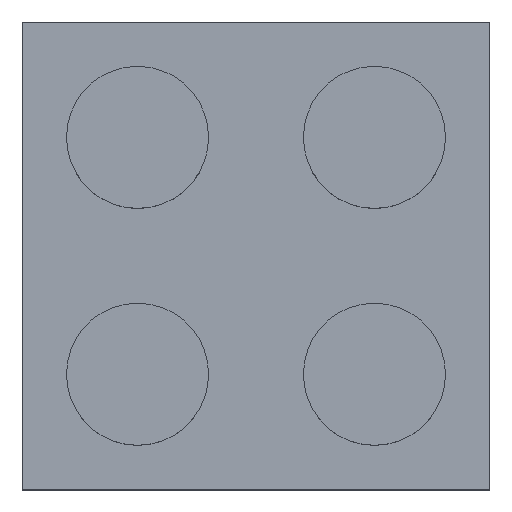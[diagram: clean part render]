
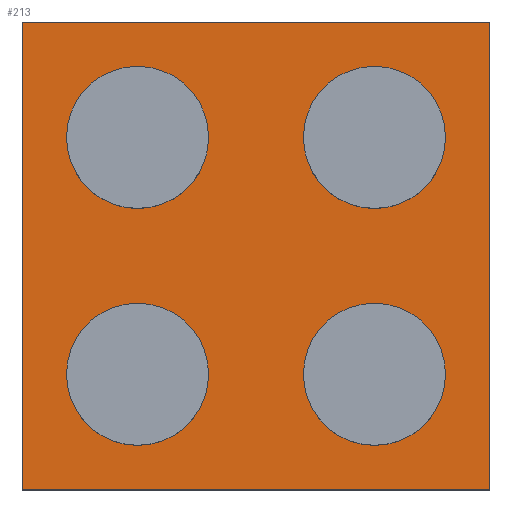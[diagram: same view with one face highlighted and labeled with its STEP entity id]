
A CAD part, top view. The second image highlights one B-rep face of the part: STEP entity #213.
In plain terms, the highlighted planar face has unit normal (0, 0, 1).
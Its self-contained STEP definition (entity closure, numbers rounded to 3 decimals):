
#24 = VERTEX_POINT('',#25);
#25 = CARTESIAN_POINT('',(-7.9,-7.9,3.2));
#32 = PLANE('',#33);
#33 = AXIS2_PLACEMENT_3D('',#34,#35,#36);
#34 = CARTESIAN_POINT('',(-7.9,-7.9,0.));
#35 = DIRECTION('',(1.,0.,0.));
#36 = DIRECTION('',(0.,0.,1.));
#44 = PLANE('',#45);
#45 = AXIS2_PLACEMENT_3D('',#46,#47,#48);
#46 = CARTESIAN_POINT('',(-7.9,-7.9,0.));
#47 = DIRECTION('',(0.,1.,0.));
#48 = DIRECTION('',(0.,0.,1.));
#85 = VERTEX_POINT('',#86);
#86 = CARTESIAN_POINT('',(-7.9,7.9,3.2));
#100 = PLANE('',#101);
#101 = AXIS2_PLACEMENT_3D('',#102,#103,#104);
#102 = CARTESIAN_POINT('',(-7.9,7.9,0.));
#103 = DIRECTION('',(0.,1.,0.));
#104 = DIRECTION('',(0.,0.,1.));
#112 = EDGE_CURVE('',#24,#85,#113,.T.);
#113 = SURFACE_CURVE('',#114,(#118,#125),.PCURVE_S1.);
#114 = LINE('',#115,#116);
#115 = CARTESIAN_POINT('',(-7.9,-7.9,3.2));
#116 = VECTOR('',#117,1.);
#117 = DIRECTION('',(0.,1.,0.));
#118 = PCURVE('',#32,#119);
#119 = DEFINITIONAL_REPRESENTATION('',(#120),#124);
#120 = LINE('',#121,#122);
#121 = CARTESIAN_POINT('',(3.2,0.));
#122 = VECTOR('',#123,1.);
#123 = DIRECTION('',(0.,-1.));
#124 = ( GEOMETRIC_REPRESENTATION_CONTEXT(2) 
PARAMETRIC_REPRESENTATION_CONTEXT() REPRESENTATION_CONTEXT('2D SPACE',''
  ) );
#125 = PCURVE('',#126,#131);
#126 = PLANE('',#127);
#127 = AXIS2_PLACEMENT_3D('',#128,#129,#130);
#128 = CARTESIAN_POINT('',(-7.9,-7.9,3.2));
#129 = DIRECTION('',(0.,0.,1.));
#130 = DIRECTION('',(1.,0.,0.));
#131 = DEFINITIONAL_REPRESENTATION('',(#132),#136);
#132 = LINE('',#133,#134);
#133 = CARTESIAN_POINT('',(0.,0.));
#134 = VECTOR('',#135,1.);
#135 = DIRECTION('',(0.,1.));
#136 = ( GEOMETRIC_REPRESENTATION_CONTEXT(2) 
PARAMETRIC_REPRESENTATION_CONTEXT() REPRESENTATION_CONTEXT('2D SPACE',''
  ) );
#165 = EDGE_CURVE('',#24,#166,#168,.T.);
#166 = VERTEX_POINT('',#167);
#167 = CARTESIAN_POINT('',(7.9,-7.9,3.2));
#168 = SURFACE_CURVE('',#169,(#173,#180),.PCURVE_S1.);
#169 = LINE('',#170,#171);
#170 = CARTESIAN_POINT('',(-7.9,-7.9,3.2));
#171 = VECTOR('',#172,1.);
#172 = DIRECTION('',(1.,0.,0.));
#173 = PCURVE('',#44,#174);
#174 = DEFINITIONAL_REPRESENTATION('',(#175),#179);
#175 = LINE('',#176,#177);
#176 = CARTESIAN_POINT('',(3.2,0.));
#177 = VECTOR('',#178,1.);
#178 = DIRECTION('',(0.,1.));
#179 = ( GEOMETRIC_REPRESENTATION_CONTEXT(2) 
PARAMETRIC_REPRESENTATION_CONTEXT() REPRESENTATION_CONTEXT('2D SPACE',''
  ) );
#180 = PCURVE('',#126,#181);
#181 = DEFINITIONAL_REPRESENTATION('',(#182),#186);
#182 = LINE('',#183,#184);
#183 = CARTESIAN_POINT('',(0.,0.));
#184 = VECTOR('',#185,1.);
#185 = DIRECTION('',(1.,0.));
#186 = ( GEOMETRIC_REPRESENTATION_CONTEXT(2) 
PARAMETRIC_REPRESENTATION_CONTEXT() REPRESENTATION_CONTEXT('2D SPACE',''
  ) );
#202 = PLANE('',#203);
#203 = AXIS2_PLACEMENT_3D('',#204,#205,#206);
#204 = CARTESIAN_POINT('',(7.9,-7.9,0.));
#205 = DIRECTION('',(1.,0.,0.));
#206 = DIRECTION('',(0.,0.,1.));
#213 = ADVANCED_FACE('',(#214,#262,#293,#324,#355),#126,.T.);
#214 = FACE_BOUND('',#215,.T.);
#215 = EDGE_LOOP('',(#216,#217,#218,#241));
#216 = ORIENTED_EDGE('',*,*,#112,.F.);
#217 = ORIENTED_EDGE('',*,*,#165,.T.);
#218 = ORIENTED_EDGE('',*,*,#219,.T.);
#219 = EDGE_CURVE('',#166,#220,#222,.T.);
#220 = VERTEX_POINT('',#221);
#221 = CARTESIAN_POINT('',(7.9,7.9,3.2));
#222 = SURFACE_CURVE('',#223,(#227,#234),.PCURVE_S1.);
#223 = LINE('',#224,#225);
#224 = CARTESIAN_POINT('',(7.9,-7.9,3.2));
#225 = VECTOR('',#226,1.);
#226 = DIRECTION('',(0.,1.,0.));
#227 = PCURVE('',#126,#228);
#228 = DEFINITIONAL_REPRESENTATION('',(#229),#233);
#229 = LINE('',#230,#231);
#230 = CARTESIAN_POINT('',(15.8,0.));
#231 = VECTOR('',#232,1.);
#232 = DIRECTION('',(0.,1.));
#233 = ( GEOMETRIC_REPRESENTATION_CONTEXT(2) 
PARAMETRIC_REPRESENTATION_CONTEXT() REPRESENTATION_CONTEXT('2D SPACE',''
  ) );
#234 = PCURVE('',#202,#235);
#235 = DEFINITIONAL_REPRESENTATION('',(#236),#240);
#236 = LINE('',#237,#238);
#237 = CARTESIAN_POINT('',(3.2,0.));
#238 = VECTOR('',#239,1.);
#239 = DIRECTION('',(0.,-1.));
#240 = ( GEOMETRIC_REPRESENTATION_CONTEXT(2) 
PARAMETRIC_REPRESENTATION_CONTEXT() REPRESENTATION_CONTEXT('2D SPACE',''
  ) );
#241 = ORIENTED_EDGE('',*,*,#242,.F.);
#242 = EDGE_CURVE('',#85,#220,#243,.T.);
#243 = SURFACE_CURVE('',#244,(#248,#255),.PCURVE_S1.);
#244 = LINE('',#245,#246);
#245 = CARTESIAN_POINT('',(-7.9,7.9,3.2));
#246 = VECTOR('',#247,1.);
#247 = DIRECTION('',(1.,0.,0.));
#248 = PCURVE('',#126,#249);
#249 = DEFINITIONAL_REPRESENTATION('',(#250),#254);
#250 = LINE('',#251,#252);
#251 = CARTESIAN_POINT('',(0.,15.8));
#252 = VECTOR('',#253,1.);
#253 = DIRECTION('',(1.,0.));
#254 = ( GEOMETRIC_REPRESENTATION_CONTEXT(2) 
PARAMETRIC_REPRESENTATION_CONTEXT() REPRESENTATION_CONTEXT('2D SPACE',''
  ) );
#255 = PCURVE('',#100,#256);
#256 = DEFINITIONAL_REPRESENTATION('',(#257),#261);
#257 = LINE('',#258,#259);
#258 = CARTESIAN_POINT('',(3.2,0.));
#259 = VECTOR('',#260,1.);
#260 = DIRECTION('',(0.,1.));
#261 = ( GEOMETRIC_REPRESENTATION_CONTEXT(2) 
PARAMETRIC_REPRESENTATION_CONTEXT() REPRESENTATION_CONTEXT('2D SPACE',''
  ) );
#262 = FACE_BOUND('',#263,.T.);
#263 = EDGE_LOOP('',(#264));
#264 = ORIENTED_EDGE('',*,*,#265,.F.);
#265 = EDGE_CURVE('',#266,#266,#268,.T.);
#266 = VERTEX_POINT('',#267);
#267 = CARTESIAN_POINT('',(-1.6,-4.,3.2));
#268 = SURFACE_CURVE('',#269,(#274,#281),.PCURVE_S1.);
#269 = CIRCLE('',#270,2.4);
#270 = AXIS2_PLACEMENT_3D('',#271,#272,#273);
#271 = CARTESIAN_POINT('',(-4.,-4.,3.2));
#272 = DIRECTION('',(0.,0.,1.));
#273 = DIRECTION('',(1.,0.,0.));
#274 = PCURVE('',#126,#275);
#275 = DEFINITIONAL_REPRESENTATION('',(#276),#280);
#276 = CIRCLE('',#277,2.4);
#277 = AXIS2_PLACEMENT_2D('',#278,#279);
#278 = CARTESIAN_POINT('',(3.9,3.9));
#279 = DIRECTION('',(1.,0.));
#280 = ( GEOMETRIC_REPRESENTATION_CONTEXT(2) 
PARAMETRIC_REPRESENTATION_CONTEXT() REPRESENTATION_CONTEXT('2D SPACE',''
  ) );
#281 = PCURVE('',#282,#287);
#282 = CYLINDRICAL_SURFACE('',#283,2.4);
#283 = AXIS2_PLACEMENT_3D('',#284,#285,#286);
#284 = CARTESIAN_POINT('',(-4.,-4.,3.2));
#285 = DIRECTION('',(-0.,-0.,-1.));
#286 = DIRECTION('',(1.,0.,0.));
#287 = DEFINITIONAL_REPRESENTATION('',(#288),#292);
#288 = LINE('',#289,#290);
#289 = CARTESIAN_POINT('',(-0.,0.));
#290 = VECTOR('',#291,1.);
#291 = DIRECTION('',(-1.,0.));
#292 = ( GEOMETRIC_REPRESENTATION_CONTEXT(2) 
PARAMETRIC_REPRESENTATION_CONTEXT() REPRESENTATION_CONTEXT('2D SPACE',''
  ) );
#293 = FACE_BOUND('',#294,.T.);
#294 = EDGE_LOOP('',(#295));
#295 = ORIENTED_EDGE('',*,*,#296,.F.);
#296 = EDGE_CURVE('',#297,#297,#299,.T.);
#297 = VERTEX_POINT('',#298);
#298 = CARTESIAN_POINT('',(6.4,-4.,3.2));
#299 = SURFACE_CURVE('',#300,(#305,#312),.PCURVE_S1.);
#300 = CIRCLE('',#301,2.4);
#301 = AXIS2_PLACEMENT_3D('',#302,#303,#304);
#302 = CARTESIAN_POINT('',(4.,-4.,3.2));
#303 = DIRECTION('',(0.,0.,1.));
#304 = DIRECTION('',(1.,0.,0.));
#305 = PCURVE('',#126,#306);
#306 = DEFINITIONAL_REPRESENTATION('',(#307),#311);
#307 = CIRCLE('',#308,2.4);
#308 = AXIS2_PLACEMENT_2D('',#309,#310);
#309 = CARTESIAN_POINT('',(11.9,3.9));
#310 = DIRECTION('',(1.,0.));
#311 = ( GEOMETRIC_REPRESENTATION_CONTEXT(2) 
PARAMETRIC_REPRESENTATION_CONTEXT() REPRESENTATION_CONTEXT('2D SPACE',''
  ) );
#312 = PCURVE('',#313,#318);
#313 = CYLINDRICAL_SURFACE('',#314,2.4);
#314 = AXIS2_PLACEMENT_3D('',#315,#316,#317);
#315 = CARTESIAN_POINT('',(4.,-4.,3.2));
#316 = DIRECTION('',(-0.,-0.,-1.));
#317 = DIRECTION('',(1.,0.,0.));
#318 = DEFINITIONAL_REPRESENTATION('',(#319),#323);
#319 = LINE('',#320,#321);
#320 = CARTESIAN_POINT('',(-0.,0.));
#321 = VECTOR('',#322,1.);
#322 = DIRECTION('',(-1.,0.));
#323 = ( GEOMETRIC_REPRESENTATION_CONTEXT(2) 
PARAMETRIC_REPRESENTATION_CONTEXT() REPRESENTATION_CONTEXT('2D SPACE',''
  ) );
#324 = FACE_BOUND('',#325,.T.);
#325 = EDGE_LOOP('',(#326));
#326 = ORIENTED_EDGE('',*,*,#327,.F.);
#327 = EDGE_CURVE('',#328,#328,#330,.T.);
#328 = VERTEX_POINT('',#329);
#329 = CARTESIAN_POINT('',(-1.6,4.,3.2));
#330 = SURFACE_CURVE('',#331,(#336,#343),.PCURVE_S1.);
#331 = CIRCLE('',#332,2.4);
#332 = AXIS2_PLACEMENT_3D('',#333,#334,#335);
#333 = CARTESIAN_POINT('',(-4.,4.,3.2));
#334 = DIRECTION('',(0.,0.,1.));
#335 = DIRECTION('',(1.,0.,0.));
#336 = PCURVE('',#126,#337);
#337 = DEFINITIONAL_REPRESENTATION('',(#338),#342);
#338 = CIRCLE('',#339,2.4);
#339 = AXIS2_PLACEMENT_2D('',#340,#341);
#340 = CARTESIAN_POINT('',(3.9,11.9));
#341 = DIRECTION('',(1.,0.));
#342 = ( GEOMETRIC_REPRESENTATION_CONTEXT(2) 
PARAMETRIC_REPRESENTATION_CONTEXT() REPRESENTATION_CONTEXT('2D SPACE',''
  ) );
#343 = PCURVE('',#344,#349);
#344 = CYLINDRICAL_SURFACE('',#345,2.4);
#345 = AXIS2_PLACEMENT_3D('',#346,#347,#348);
#346 = CARTESIAN_POINT('',(-4.,4.,3.2));
#347 = DIRECTION('',(-0.,-0.,-1.));
#348 = DIRECTION('',(1.,0.,0.));
#349 = DEFINITIONAL_REPRESENTATION('',(#350),#354);
#350 = LINE('',#351,#352);
#351 = CARTESIAN_POINT('',(-0.,0.));
#352 = VECTOR('',#353,1.);
#353 = DIRECTION('',(-1.,0.));
#354 = ( GEOMETRIC_REPRESENTATION_CONTEXT(2) 
PARAMETRIC_REPRESENTATION_CONTEXT() REPRESENTATION_CONTEXT('2D SPACE',''
  ) );
#355 = FACE_BOUND('',#356,.T.);
#356 = EDGE_LOOP('',(#357));
#357 = ORIENTED_EDGE('',*,*,#358,.F.);
#358 = EDGE_CURVE('',#359,#359,#361,.T.);
#359 = VERTEX_POINT('',#360);
#360 = CARTESIAN_POINT('',(6.4,4.,3.2));
#361 = SURFACE_CURVE('',#362,(#367,#374),.PCURVE_S1.);
#362 = CIRCLE('',#363,2.4);
#363 = AXIS2_PLACEMENT_3D('',#364,#365,#366);
#364 = CARTESIAN_POINT('',(4.,4.,3.2));
#365 = DIRECTION('',(0.,0.,1.));
#366 = DIRECTION('',(1.,0.,0.));
#367 = PCURVE('',#126,#368);
#368 = DEFINITIONAL_REPRESENTATION('',(#369),#373);
#369 = CIRCLE('',#370,2.4);
#370 = AXIS2_PLACEMENT_2D('',#371,#372);
#371 = CARTESIAN_POINT('',(11.9,11.9));
#372 = DIRECTION('',(1.,0.));
#373 = ( GEOMETRIC_REPRESENTATION_CONTEXT(2) 
PARAMETRIC_REPRESENTATION_CONTEXT() REPRESENTATION_CONTEXT('2D SPACE',''
  ) );
#374 = PCURVE('',#375,#380);
#375 = CYLINDRICAL_SURFACE('',#376,2.4);
#376 = AXIS2_PLACEMENT_3D('',#377,#378,#379);
#377 = CARTESIAN_POINT('',(4.,4.,3.2));
#378 = DIRECTION('',(-0.,-0.,-1.));
#379 = DIRECTION('',(1.,0.,0.));
#380 = DEFINITIONAL_REPRESENTATION('',(#381),#385);
#381 = LINE('',#382,#383);
#382 = CARTESIAN_POINT('',(-0.,0.));
#383 = VECTOR('',#384,1.);
#384 = DIRECTION('',(-1.,0.));
#385 = ( GEOMETRIC_REPRESENTATION_CONTEXT(2) 
PARAMETRIC_REPRESENTATION_CONTEXT() REPRESENTATION_CONTEXT('2D SPACE',''
  ) );
